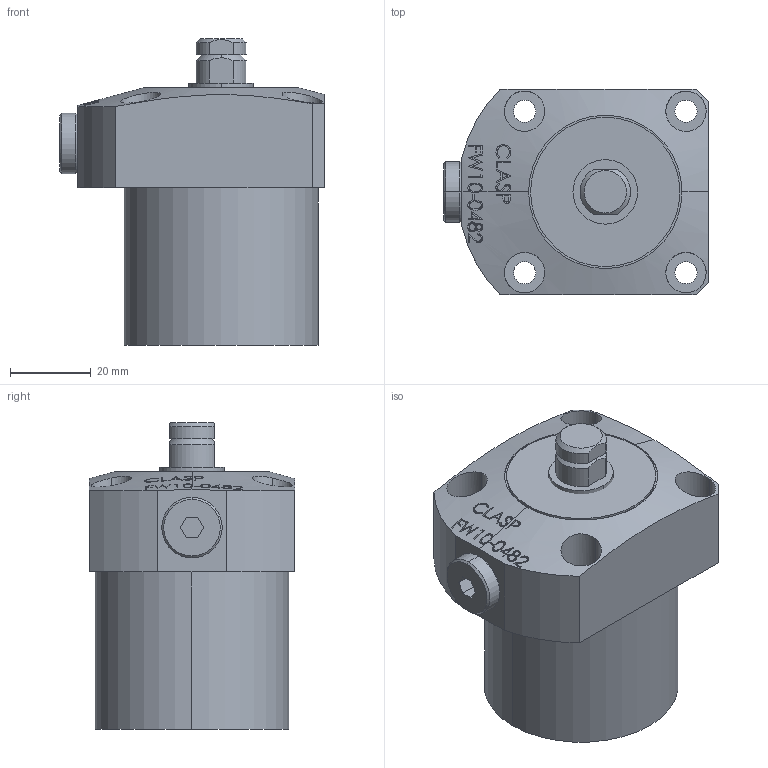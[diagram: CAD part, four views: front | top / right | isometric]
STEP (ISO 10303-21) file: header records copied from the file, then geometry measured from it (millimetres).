
FILE_DESCRIPTION (( 'STEP AP203' ), '1' );
FILE_NAME ('FW10-0482 Work support.STEP', '2022-07-09T17:11:50', ( '' ), ( '' ), 'SwSTEP 2.0', 'SolidWorks 2017', '' );
FILE_SCHEMA (( 'CONFIG_CONTROL_DESIGN' ));
Length unit declared in the file: millimetre
Products named in the file (4): FW10-0482; FW10-0482-part-2; FW10-0482-part-3; FW10-0482 Work support
Assembly tree (3 placements, depth 2):
  FW10-0482 Work support
    FW10-0482
    FW10-0482-part-2
    FW10-0482-part-3
Bounding box: 65.5 x 51 x 76 mm (x, y, z)
Volume: 147870.8 mm3; surface area: 23538.2 mm2
Topology: 3 solids, 3 shells, 264 faces, 670 edges, 441 vertices
Faces by surface type: plane 128, bspline 73, cylinder 40, cone 23
Entity records: 12709 total; most frequent: CARTESIAN_POINT 6561, ORIENTED_EDGE 1336, DIRECTION 887, EDGE_CURVE 668, VERTEX_POINT 441, VECTOR 329, LINE 329, EDGE_LOOP 305
